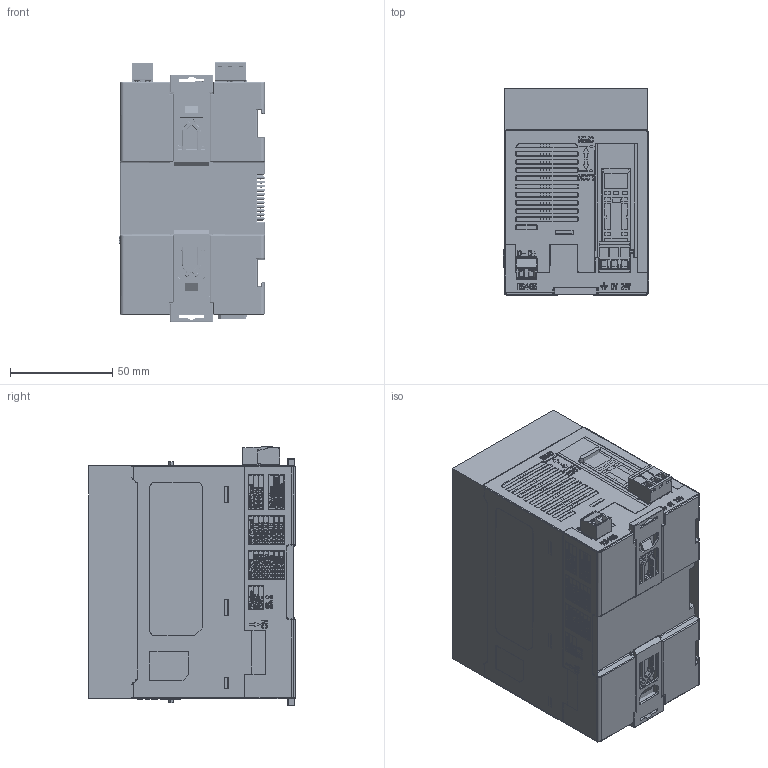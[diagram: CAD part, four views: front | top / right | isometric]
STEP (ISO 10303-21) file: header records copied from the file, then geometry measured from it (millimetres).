
FILE_DESCRIPTION((''),'2;1');
FILE_NAME('DTME08_ASM','2021-03-02T',('BRAD.PENG'),(''),'PRO/ENGINEER BY PARAMETRIC TECHNOLOGY CORPORATION, 2012360','PRO/ENGINEER BY PARAMETRIC TECHNOLOGY CORPORATION, 2012360','');
FILE_SCHEMA(('CONFIG_CONTROL_DESIGN','GEOMETRIC_VALIDATION_PROPERTIES_MIM'));
Products named in the file (4): DTM_MAIN_COVER_ORIGIN_228; DINKLE_EC508V-02P_5; DTM_MAIN_ASSY_ASM_336_ASM; DTME08_ASM
Assembly tree (3 placements, depth 3):
  DTME08_ASM
    DTM_MAIN_ASSY_ASM_336_ASM
      DTM_MAIN_COVER_ORIGIN_228
      DINKLE_EC508V-02P_5
Bounding box: 71 x 101.2 x 126.95 mm (x, y, z)
Volume: 573295.9 mm3; surface area: 170084.5 mm2
Topology: 2 solids, 377 shells, 7188 faces, 26159 edges, 19384 vertices
Faces by surface type: plane 5396, cylinder 1261, cone 215, bspline 159, torus 101, sphere 40, extrusion 16
Entity records: 350122 total; most frequent: CARTESIAN_POINT 80618, ORIENTED_EDGE 45389, DIRECTION 38685, EDGE_CURVE 26118, VERTEX_POINT 19384, VECTOR 19077, LINE 19061, AXIS2_PLACEMENT_3D 9804
